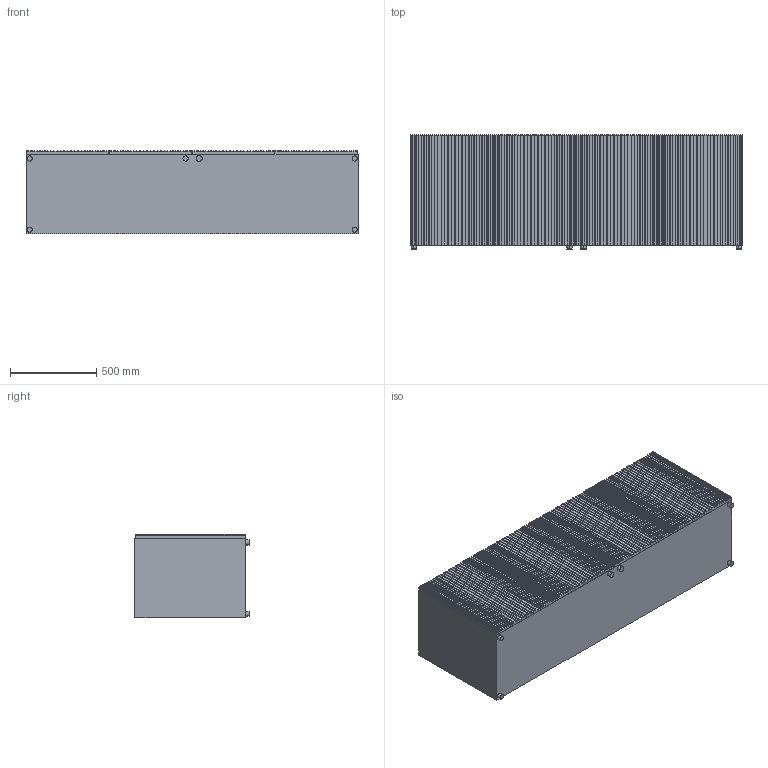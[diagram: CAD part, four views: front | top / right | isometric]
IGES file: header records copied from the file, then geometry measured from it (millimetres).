
Start section: SolidWorks IGES file using analytic representation for surfaces
Global section: file name: C:\Users\Matteo\Desktop\_Horm\_carlos\_collezione carlos\_IGS CARLOS\CARLOS cm 192X49X66H.IGS; native system: SolidWorks 2010; preprocessor: SolidWorks 2010; author: Matteo; date: 160224.161826; units: millimetre
Bounding box: 1920 x 660 x 484 mm (x, y, z)
Surface area: 10116925.7 mm2 (no closed solid volume)
Topology: 0 solids, 0 shells, 1536 faces, 11656 edges, 11656 vertices
Faces by surface type: bspline 1276, revolution 260
